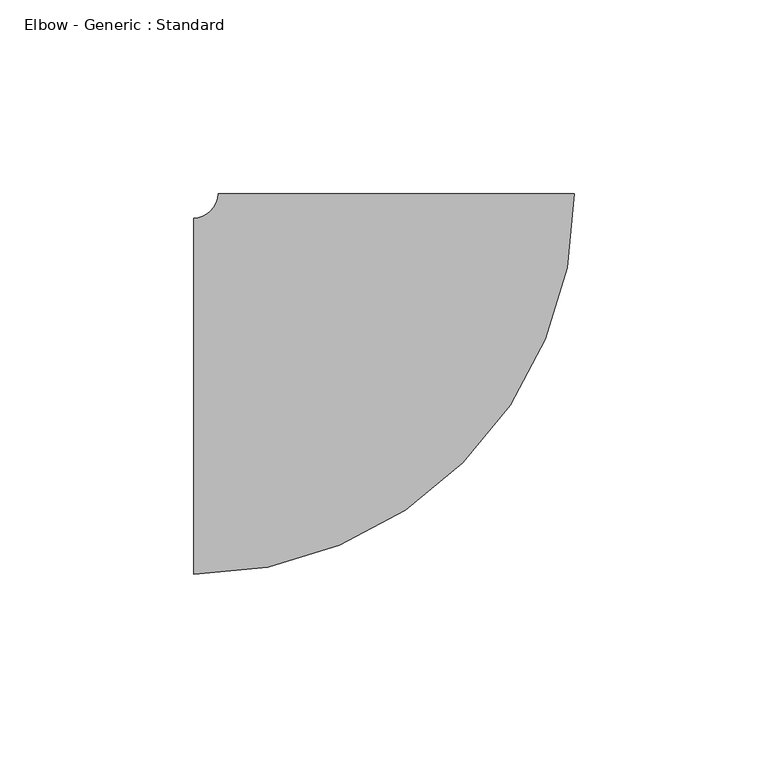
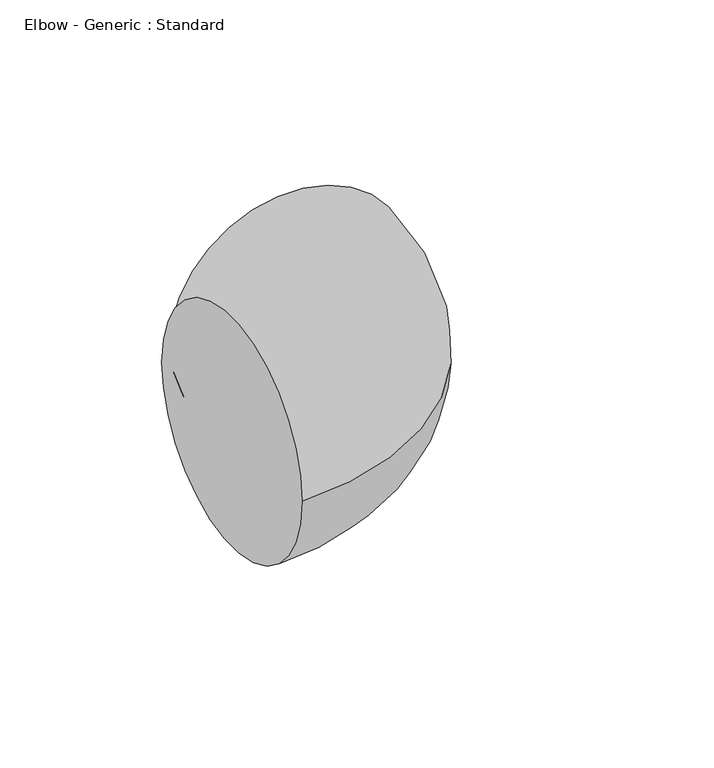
"""IFC4 building model written with IfcOpenShell, lengths in millimetres: pipe fitting geometry, Elbow - Generic : Standard."""

from ifc_helpers import new_model, si_unit, point, frame, origin, place, context, project, spatial, circle_curve, ellipse_curve, trimmed, source, transform, mapped, element, save
from ifc_brep_helpers import plane_surface, revolved_surface, advanced_brep


def elbow_generic_standard_87aeffad(model_context):
    return source(origin(), model_context, "Body", "AdvancedBrep", [
        advanced_brep(
        [(-52.3875, -46.0375, 0.0), (-52.3875, 46.0375, 0.0), (46.0375, 52.3875, 0.0), (-46.0375, 52.3875, 0.0)],
        [
            (0, 1, circle_curve(frame((-52.3875, 0.0, 0.0), z_axis=(-1.0, 0.0, 0.0), x_axis=(0.0, 1.0, 0.0)), 46.0375)),
            (1, 0, circle_curve(frame((-52.3875, 0.0, 0.0), z_axis=(-1.0, 0.0, 0.0), x_axis=(0.0, 1.0, 0.0)), 46.0375)),
            (2, 3, circle_curve(frame((0.0, 52.3875, 0.0), z_axis=(0.0, 1.0, 0.0), x_axis=(-1.0, 0.0, 0.0)), 46.0375)),
            (3, 2, circle_curve(frame((0.0, 52.3875, 0.0), z_axis=(0.0, 1.0, 0.0), x_axis=(-1.0, 0.0, 0.0)), 46.0375)),
            (3, 1, circle_curve(frame((-52.3875, 52.3875, 0.0), z_axis=(0.0, 0.0, -1.0), x_axis=(0.0, -1.0, 0.0)), 6.35)),
            (0, 2, circle_curve(frame((-52.3875, 52.3875, 0.0), z_axis=(0.0, 0.0, 1.0), x_axis=(0.0, -1.0, 0.0)), 98.425)),
        ],
        [
            plane_surface(frame((-52.3875, 0.0, 0.0), z_axis=(-1.0, 0.0, 0.0), x_axis=(0.0, 0.0, 1.0))),
            plane_surface(frame((0.0, 52.3875, 0.0), z_axis=(0.0, 1.0, 0.0), x_axis=(0.0, 0.0, 1.0))),
            revolved_surface(trimmed(ellipse_curve(frame((-52.3875, 0.0, 0.0), z_axis=(-1.0, 0.0, 0.0), x_axis=(0.0, 1.0, 0.0)), 46.0375, 46.0375), [point((-52.3875, -46.0375, 0.0))], [point((-52.3875, 46.0375, 0.0))], True, "CARTESIAN"), (-52.3875, 52.3875, 0.0), (0.0, 0.0, 1.0)),
            revolved_surface(trimmed(ellipse_curve(frame((-52.3875, 0.0, 0.0), z_axis=(-1.0, 0.0, 0.0), x_axis=(0.0, 1.0, 0.0)), 46.0375, 46.0375), [point((-52.3875, 46.0375, 0.0))], [point((-52.3875, -46.0375, 0.0))], True, "CARTESIAN"), (-52.3875, 52.3875, 0.0), (0.0, 0.0, 1.0)),
        ],
        [
            (0, [[1, 2]]),
            (1, [[3, 4]]),
            (2, [[5, -1, 6, -4]]),
            (3, [[-6, -2, -5, -3]]),
        ],
    ),
    ])


if __name__ == "__main__":
    model = new_model("IFC4")
    model_context = context("Model", 3, world=origin())
    ifc_project = project(units=[si_unit("LENGTHUNIT", "METRE", prefix="MILLI")], contexts=[model_context])
    site = spatial("IfcSite", under=ifc_project)
    building = spatial("IfcBuilding", under=site)
    placement = place(None, origin())
    elbow_generic_standard_shape = elbow_generic_standard_87aeffad(model_context)
    element("IfcPipeFitting", 1, ObjectType="Elbow - Generic : Standard", at=placement, inside=building, context=model_context, shape_type="MappedRepresentation", body=[
        mapped(elbow_generic_standard_shape, transform((0.0, 0.0, 0.0), x_axis=(1.0, 0.0, 0.0), y_axis=(0.0, 1.0, 0.0), z_axis=(0.0, 0.0, 1.0))),
    ])
    save(model, "model.ifc")
